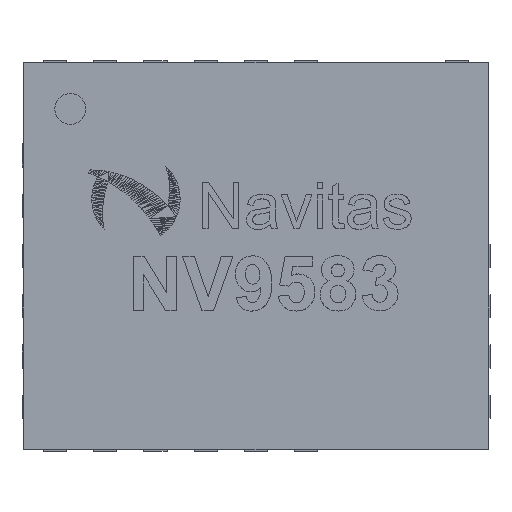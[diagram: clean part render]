
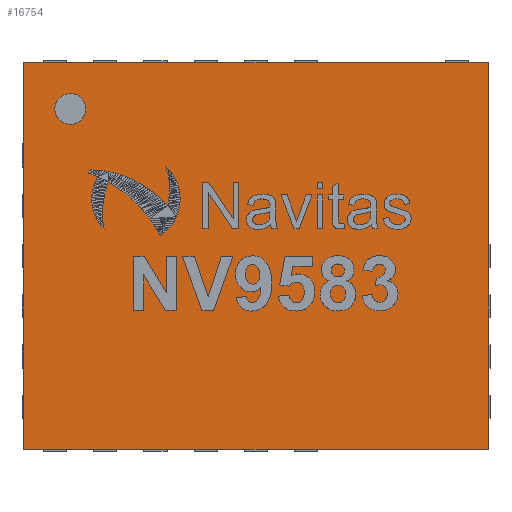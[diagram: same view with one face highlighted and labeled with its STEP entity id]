
A CAD part, top view. The second image highlights one B-rep face of the part: STEP entity #16754.
In plain terms, the highlighted planar face has unit normal (0, 0, 1).
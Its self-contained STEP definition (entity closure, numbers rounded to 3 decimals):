
#721=FACE_OUTER_BOUND('',#2002,.T.);
#2002=EDGE_LOOP('',(#10877,#10878,#10879,#10880));
#3290=LINE('',#23378,#5276);
#3294=LINE('',#23385,#5280);
#3297=LINE('',#23392,#5283);
#3299=LINE('',#23395,#5285);
#5276=VECTOR('',#19180,10.);
#5280=VECTOR('',#19186,10.);
#5283=VECTOR('',#19193,10.);
#5285=VECTOR('',#19197,10.);
#7262=VERTEX_POINT('',#23375);
#7263=VERTEX_POINT('',#23377);
#7265=VERTEX_POINT('',#23383);
#7267=VERTEX_POINT('',#23391);
#8447=EDGE_CURVE('',#7262,#7263,#3290,.T.);
#8451=EDGE_CURVE('',#7265,#7262,#3294,.T.);
#8454=EDGE_CURVE('',#7263,#7267,#3297,.T.);
#8456=EDGE_CURVE('',#7267,#7265,#3299,.T.);
#10877=ORIENTED_EDGE('',*,*,#8456,.F.);
#10878=ORIENTED_EDGE('',*,*,#8454,.F.);
#10879=ORIENTED_EDGE('',*,*,#8447,.F.);
#10880=ORIENTED_EDGE('',*,*,#8451,.F.);
#15686=PLANE('',#18075);
#16754=ADVANCED_FACE('',(#721),#15686,.F.);
#18075=AXIS2_PLACEMENT_3D('',#23396,#19198,#19199);
#19180=DIRECTION('',(0.,1.,0.));
#19186=DIRECTION('',(-1.,0.,0.));
#19193=DIRECTION('',(1.,0.,0.));
#19197=DIRECTION('',(0.,-1.,0.));
#19198=DIRECTION('center_axis',(0.,0.,-1.));
#19199=DIRECTION('ref_axis',(-1.,0.,0.));
#23375=CARTESIAN_POINT('',(-6.,0.,1.7));
#23377=CARTESIAN_POINT('',(-6.,5.,1.7));
#23378=CARTESIAN_POINT('',(-6.,0.,1.7));
#23383=CARTESIAN_POINT('',(0.,0.,1.7));
#23385=CARTESIAN_POINT('',(0.,0.,1.7));
#23391=CARTESIAN_POINT('',(0.,5.,1.7));
#23392=CARTESIAN_POINT('',(-6.,5.,1.7));
#23395=CARTESIAN_POINT('',(0.,5.,1.7));
#23396=CARTESIAN_POINT('Origin',(-3.,2.5,1.7));
